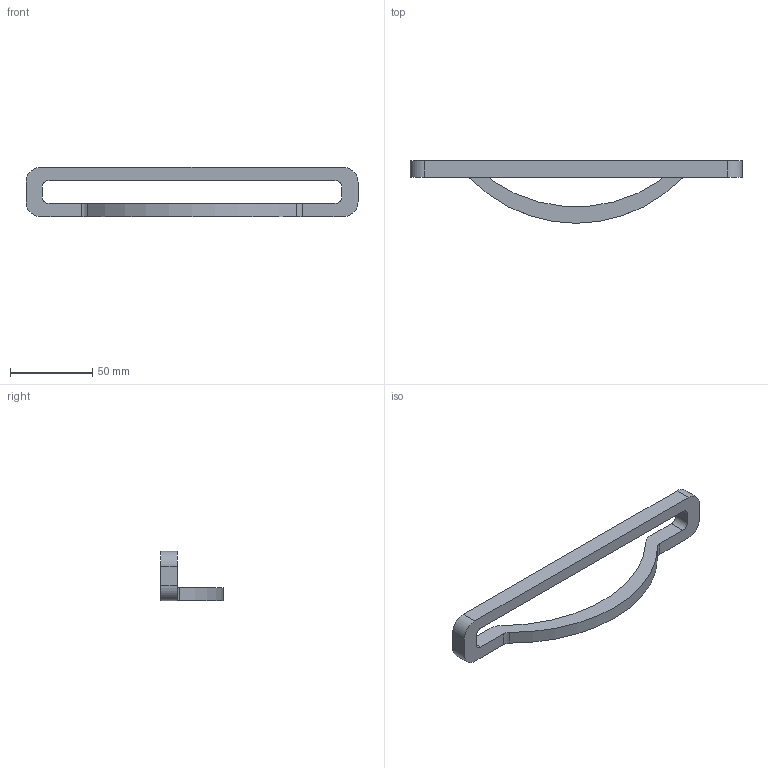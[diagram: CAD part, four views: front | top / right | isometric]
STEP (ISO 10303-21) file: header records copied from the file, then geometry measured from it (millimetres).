
FILE_DESCRIPTION( ( '' ), '1' );
FILE_NAME( 'D:/1.AUTOCAD EXPORT/Group 10/sheet_10_1/DONE/Sachin_1/9105739.stp', '2013-10-29T10:00:53', ( '' ), ( '' ), ' ', ' ', ' ' );
FILE_SCHEMA( ( 'CONFIG_CONTROL_DESIGN' ) );
Length unit declared in the file: millimetre
Products named in the file (1): 1
Bounding box: 202 x 38 x 30 mm (x, y, z)
Volume: 34335.9 mm3; surface area: 15681.7 mm2
Topology: 1 solids, 1 shells, 30 faces, 84 edges, 56 vertices
Faces by surface type: cylinder 18, plane 12
Entity records: 1032 total; most frequent: DIRECTION 182, CARTESIAN_POINT 171, ORIENTED_EDGE 168, EDGE_CURVE 84, AXIS2_PLACEMENT_3D 67, VERTEX_POINT 56, LINE 48, VECTOR 48
